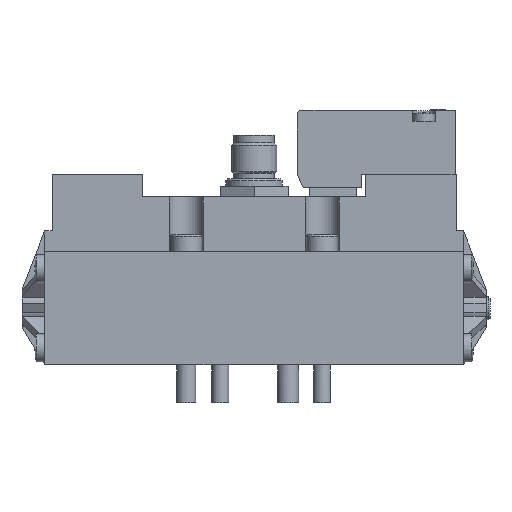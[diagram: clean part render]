
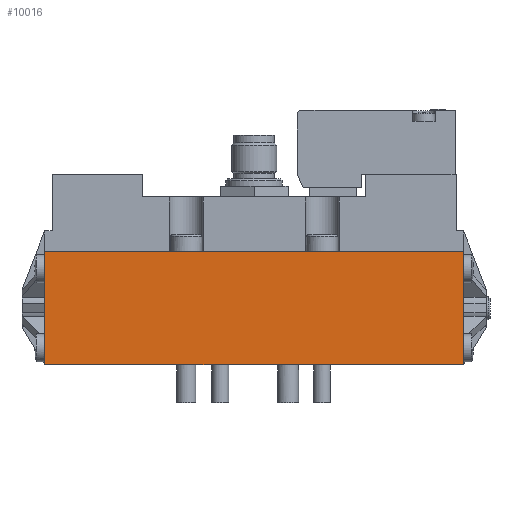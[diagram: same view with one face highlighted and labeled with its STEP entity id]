
A CAD part, front view. The second image highlights one B-rep face of the part: STEP entity #10016.
In plain terms, the highlighted planar face has unit normal (0, -1, 0).
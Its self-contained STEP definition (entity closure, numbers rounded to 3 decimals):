
#5069=CARTESIAN_POINT('',(-55.5,-21.0,0.0));
#5070=VERTEX_POINT('',#5069);
#5077=CARTESIAN_POINT('',(-55.5,-21.0,30.0));
#5078=VERTEX_POINT('',#5077);
#5079=CARTESIAN_POINT('',(-55.5,-21.0,0.0));
#5080=DIRECTION('',(0.0,0.0,1.0));
#5081=VECTOR('',#5080,30.0);
#5082=LINE('',#5079,#5081);
#5083=EDGE_CURVE('',#5070,#5078,#5082,.T.);
#5319=CARTESIAN_POINT('',(55.5,-21.,30.0));
#5320=VERTEX_POINT('',#5319);
#5321=CARTESIAN_POINT('',(55.5,-21.,30.0));
#5322=DIRECTION('',(-1.0,0.0,0.0));
#5323=VECTOR('',#5322,111.);
#5324=LINE('',#5321,#5323);
#5325=EDGE_CURVE('',#5320,#5078,#5324,.T.);
#5564=CARTESIAN_POINT('',(55.5,-21.,0.0));
#5565=VERTEX_POINT('',#5564);
#5572=CARTESIAN_POINT('',(55.5,-21.,0.0));
#5573=DIRECTION('',(-1.0,0.0,0.0));
#5574=VECTOR('',#5573,111.);
#5575=LINE('',#5572,#5574);
#5576=EDGE_CURVE('',#5565,#5070,#5575,.T.);
#7882=CARTESIAN_POINT('',(55.5,-21.,0.0));
#7883=DIRECTION('',(0.0,0.0,1.0));
#7884=VECTOR('',#7883,30.0);
#7885=LINE('',#7882,#7884);
#7886=EDGE_CURVE('',#5565,#5320,#7885,.T.);
#10005=CARTESIAN_POINT('',(55.5,-21.,0.0));
#10006=DIRECTION('',(0.0,-1.0,0.0));
#10007=DIRECTION('',(0.0,0.0,-1.0));
#10008=AXIS2_PLACEMENT_3D('',#10005,#10006,#10007);
#10009=PLANE('',#10008);
#10010=ORIENTED_EDGE('',*,*,#5576,.F.);
#10011=ORIENTED_EDGE('',*,*,#7886,.T.);
#10012=ORIENTED_EDGE('',*,*,#5325,.T.);
#10013=ORIENTED_EDGE('',*,*,#5083,.F.);
#10014=EDGE_LOOP('',(#10010,#10011,#10012,#10013));
#10015=FACE_OUTER_BOUND('',#10014,.T.);
#10016=ADVANCED_FACE('',(#10015),#10009,.T.);
